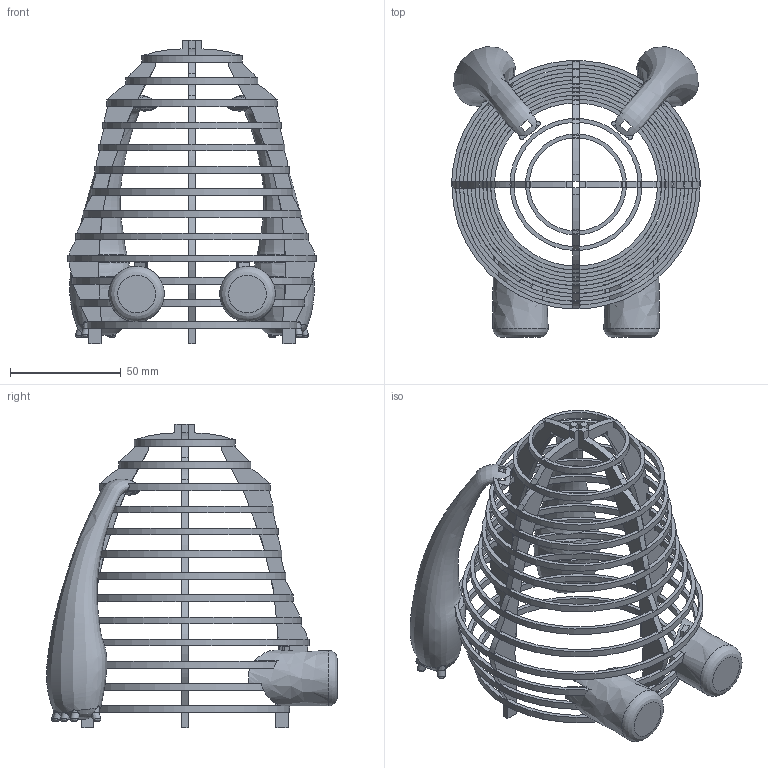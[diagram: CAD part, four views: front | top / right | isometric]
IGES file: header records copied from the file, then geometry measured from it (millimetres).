
Global section: file name: Baymax 3.0; native system: unknown; preprocessor: unknown; author: unknown; organization: unknown; date: 20260718.004025; units: millimetre
Bounding box: 111.99 x 131.07 x 137 mm (x, y, z)
Volume: 118857.6 mm3; surface area: 69894.6 mm2
Topology: 23 solids, 23 shells, 500 faces, 1398 edges, 944 vertices
Faces by surface type: bspline 500
